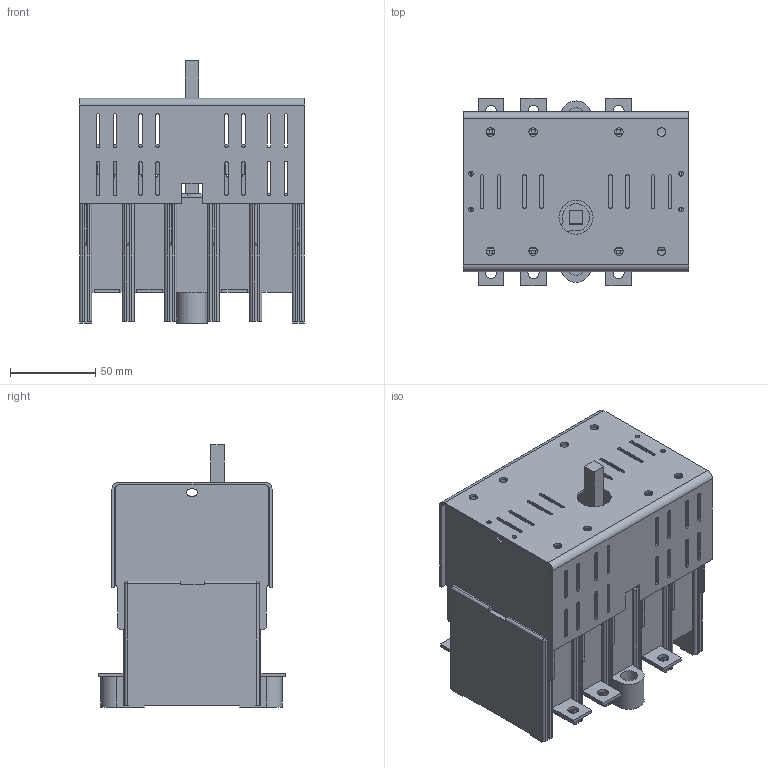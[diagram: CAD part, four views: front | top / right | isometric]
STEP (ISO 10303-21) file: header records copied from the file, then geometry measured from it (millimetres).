
FILE_DESCRIPTION(/* description */ (''),/* implementation_level */ '2;1');
FILE_NAME(/* name */ 'RAB 000 P3.stp',/* time_stamp */ '2021-08-19T09:43:59+02:00',/* author */ (''),/* organization */ (''),/* preprocessor_version */ 'ST-DEVELOPER v18.1',/* originating_system */ 'SIEMENS PLM Software NX 1965',/* authorisation */ '');
FILE_SCHEMA (('FEATURE_BASED_PROCESS_PLANNING','PROCESS_PLANNING_SCHEMA','AP242_MANAGED_MODEL_BASED_3D_ENGINEERING_MIM_LF { 1 0 10303 442 1 1 4 }'));
Length unit declared in the file: millimetre
Products named in the file (1): RAB 000 P3_stp
Bounding box: 132.5 x 110 x 154 mm (x, y, z)
Volume: 737928.7 mm3; surface area: 207121.7 mm2
Topology: 1 solids, 1 shells, 1003 faces, 2846 edges, 1826 vertices
Faces by surface type: plane 648, cylinder 331, sphere 23, bspline 1
Full cylindrical faces by diameter (mm): 2.7 x4, 5 x8, 5.8 x2, 6.5 x6, 10 x2, 20 x1
Entity records: 32336 total; most frequent: CARTESIAN_POINT 5909, ORIENTED_EDGE 5578, DIRECTION 5362, EDGE_CURVE 2789, LINE 2060, VECTOR 2060, VERTEX_POINT 1816, AXIS2_PLACEMENT_3D 1651
